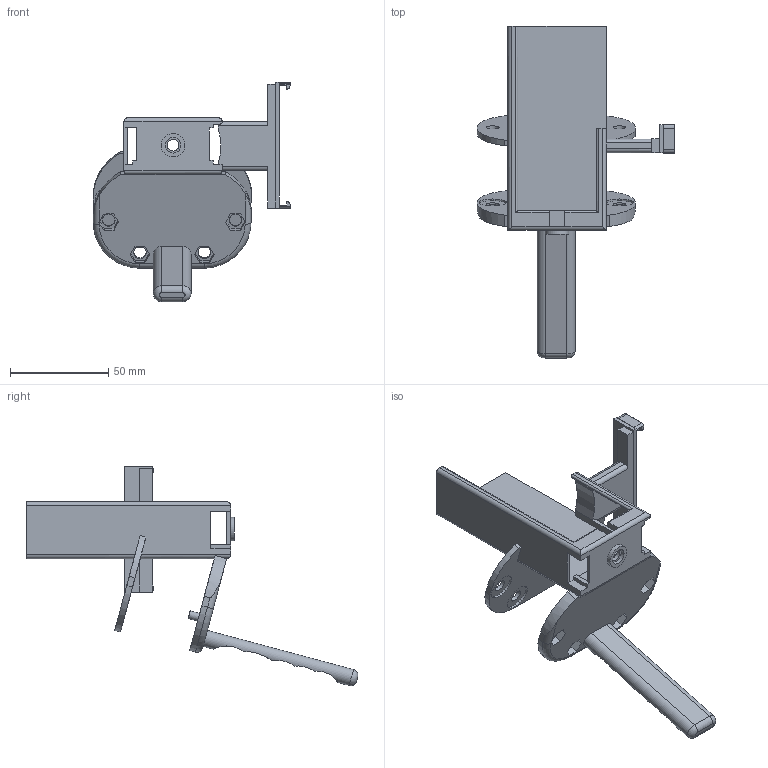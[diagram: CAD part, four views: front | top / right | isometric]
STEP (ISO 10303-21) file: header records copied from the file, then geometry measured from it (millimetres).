
FILE_DESCRIPTION (( 'STEP AP214' ), '1' );
FILE_NAME ('handheld-body.step', '2026-11-14T03:53:11', ( '' ), ( '' ), 'SwSTEP 2.0', 'SolidWorks 2024', '' );
FILE_SCHEMA (( 'AUTOMOTIVE_DESIGN' ));
Length unit declared in the file: millimetre
Products named in the file (5): body_new; combined_body_A_new; DexCap_D435_Vive_Bracket_v2; 零件2^body_new_version; handheld-body
Assembly tree (4 placements, depth 3):
  handheld-body
    combined_body_A_new
      body_new
      DexCap_D435_Vive_Bracket_v2
    零件2^body_new_version
Bounding box: 100.51 x 168.8 x 111.7 mm (x, y, z)
Volume: 94796.6 mm3; surface area: 69634.6 mm2
Topology: 3 solids, 3 shells, 337 faces, 931 edges, 607 vertices
Faces by surface type: plane 240, cylinder 93, torus 4
Full cylindrical faces by diameter (mm): 4 x2, 6 x2, 6.4 x8, 8 x2, 12 x2, 14 x6
Entity records: 10918 total; most frequent: CARTESIAN_POINT 2307, ORIENTED_EDGE 1798, DIRECTION 1682, EDGE_CURVE 899, VECTOR 686, LINE 686, VERTEX_POINT 597, AXIS2_PLACEMENT_3D 498
